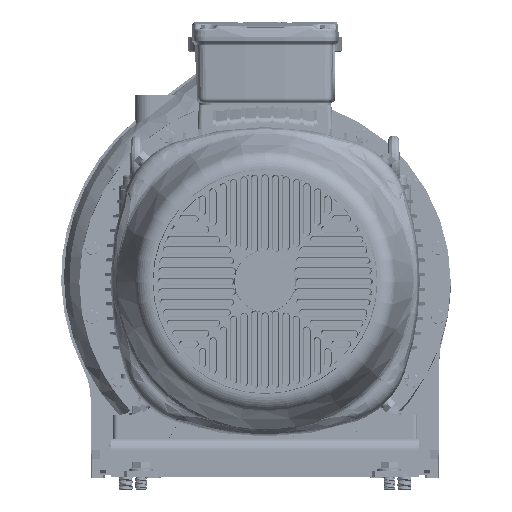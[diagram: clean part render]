
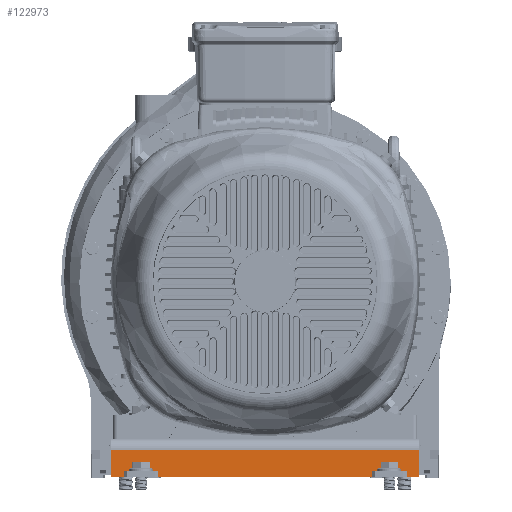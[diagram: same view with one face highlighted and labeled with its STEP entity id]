
A CAD part, top view. The second image highlights one B-rep face of the part: STEP entity #122973.
In plain terms, the highlighted planar face has unit normal (0, 0, 1) as drawn and (1, 0, 0) by its records, which use the part's own axes.
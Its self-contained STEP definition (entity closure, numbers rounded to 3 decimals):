
#3257 = ORIENTED_EDGE ( 'NONE', *, *, #7172, .T. ) ;
#3486 = EDGE_CURVE ( 'NONE', #132768, #11280, #22411, .T. ) ;
#4400 = FACE_OUTER_BOUND ( 'NONE', #118605, .T. ) ;
#6603 = VERTEX_POINT ( 'NONE', #157631 ) ;
#6913 = VERTEX_POINT ( 'NONE', #162618 ) ;
#7172 = EDGE_CURVE ( 'NONE', #45253, #132768, #54460, .T. ) ;
#8282 = CARTESIAN_POINT ( 'NONE',  ( 423., 9., -83.5 ) ) ;
#9152 = DIRECTION ( 'NONE',  ( 0., 0., -1. ) ) ;
#9408 = CARTESIAN_POINT ( 'NONE',  ( 423., 0., -33.5 ) ) ;
#10137 = VECTOR ( 'NONE', #151855, 1000. ) ;
#10256 = LINE ( 'NONE', #77585, #38701 ) ;
#11280 = VERTEX_POINT ( 'NONE', #41322 ) ;
#14509 = VECTOR ( 'NONE', #160543, 1000. ) ;
#14920 = EDGE_CURVE ( 'NONE', #48638, #62026, #155432, .T. ) ;
#16324 = EDGE_CURVE ( 'NONE', #135939, #108275, #156387, .T. ) ;
#19690 = DIRECTION ( 'NONE',  ( 0., 0., 1. ) ) ;
#20858 = EDGE_CURVE ( 'NONE', #6603, #132160, #33179, .T. ) ;
#22411 = LINE ( 'NONE', #151360, #77158 ) ;
#22983 = CARTESIAN_POINT ( 'NONE',  ( 423., 0., -457. ) ) ;
#25638 = LINE ( 'NONE', #128453, #152914 ) ;
#28921 = CARTESIAN_POINT ( 'NONE',  ( 423., 39., -16. ) ) ;
#32999 = AXIS2_PLACEMENT_3D ( 'NONE', #71746, #33004, #161904 ) ;
#33004 = DIRECTION ( 'NONE',  ( -1., 0., 0. ) ) ;
#33179 = LINE ( 'NONE', #148631, #153646 ) ;
#35263 = LINE ( 'NONE', #99283, #115445 ) ;
#36636 = DIRECTION ( 'NONE',  ( 0., 0., -1. ) ) ;
#38701 = VECTOR ( 'NONE', #166102, 1000. ) ;
#40365 = EDGE_CURVE ( 'NONE', #62026, #6603, #56883, .T. ) ;
#41322 = CARTESIAN_POINT ( 'NONE',  ( 423., 9., -439.5 ) ) ;
#41655 = CARTESIAN_POINT ( 'NONE',  ( 423., 0., 0. ) ) ;
#41791 = CARTESIAN_POINT ( 'NONE',  ( 423., -0.001, -457. ) ) ;
#43420 = EDGE_CURVE ( 'NONE', #70570, #135939, #10256, .T. ) ;
#43995 = PLANE ( 'NONE',  #32999 ) ;
#45213 = CARTESIAN_POINT ( 'NONE',  ( 423., 9., -33.5 ) ) ;
#45253 = VERTEX_POINT ( 'NONE', #82273 ) ;
#47221 = EDGE_CURVE ( 'NONE', #11280, #48638, #114289, .T. ) ;
#47281 = VERTEX_POINT ( 'NONE', #115940 ) ;
#48638 = VERTEX_POINT ( 'NONE', #63746 ) ;
#49183 = EDGE_CURVE ( 'NONE', #6913, #45253, #25638, .T. ) ;
#51936 = VECTOR ( 'NONE', #144440, 1000. ) ;
#54460 = LINE ( 'NONE', #105864, #98932 ) ;
#56883 = LINE ( 'NONE', #41791, #14509 ) ;
#57044 = EDGE_CURVE ( 'NONE', #47281, #108275, #73997, .T. ) ;
#62026 = VERTEX_POINT ( 'NONE', #22983 ) ;
#63746 = CARTESIAN_POINT ( 'NONE',  ( 423., 0., -439.5 ) ) ;
#63970 = ORIENTED_EDGE ( 'NONE', *, *, #47221, .T. ) ;
#64218 = ORIENTED_EDGE ( 'NONE', *, *, #43420, .F. ) ;
#70570 = VERTEX_POINT ( 'NONE', #8282 ) ;
#71224 = CARTESIAN_POINT ( 'NONE',  ( 423., 0., -33.5 ) ) ;
#71225 = CARTESIAN_POINT ( 'NONE',  ( 423., 9., -389.5 ) ) ;
#71746 = CARTESIAN_POINT ( 'NONE',  ( 423., 55., 0. ) ) ;
#73997 = LINE ( 'NONE', #124597, #85499 ) ;
#76352 = DIRECTION ( 'NONE',  ( 0., -1., 0. ) ) ;
#77158 = VECTOR ( 'NONE', #125255, 1000. ) ;
#77585 = CARTESIAN_POINT ( 'NONE',  ( 423., 9., -33.5 ) ) ;
#82273 = CARTESIAN_POINT ( 'NONE',  ( 423., 0., -389.5 ) ) ;
#83838 = DIRECTION ( 'NONE',  ( 0., -1., 0. ) ) ;
#85499 = VECTOR ( 'NONE', #9152, 1000. ) ;
#88558 = ORIENTED_EDGE ( 'NONE', *, *, #166498, .F. ) ;
#98753 = CARTESIAN_POINT ( 'NONE',  ( 423., 0., -83.5 ) ) ;
#98932 = VECTOR ( 'NONE', #157288, 1000. ) ;
#99283 = CARTESIAN_POINT ( 'NONE',  ( 423., -0.001, -16. ) ) ;
#103980 = ORIENTED_EDGE ( 'NONE', *, *, #20858, .T. ) ;
#105864 = CARTESIAN_POINT ( 'NONE',  ( 423., 0., -389.5 ) ) ;
#108275 = VERTEX_POINT ( 'NONE', #9408 ) ;
#110452 = ORIENTED_EDGE ( 'NONE', *, *, #3486, .T. ) ;
#114289 = LINE ( 'NONE', #153876, #138974 ) ;
#115445 = VECTOR ( 'NONE', #138099, 1000. ) ;
#115940 = CARTESIAN_POINT ( 'NONE',  ( 423., 0., -16. ) ) ;
#118605 = EDGE_LOOP ( 'NONE', ( #151039, #103980, #88558, #125144, #151153, #64218, #130020, #138323, #3257, #110452, #63970, #120867 ) ) ;
#120867 = ORIENTED_EDGE ( 'NONE', *, *, #14920, .T. ) ;
#122973 = ADVANCED_FACE ( 'NONE', ( #4400 ), #43995, .F. ) ;
#124597 = CARTESIAN_POINT ( 'NONE',  ( 423., 0., 0. ) ) ;
#125144 = ORIENTED_EDGE ( 'NONE', *, *, #57044, .T. ) ;
#125255 = DIRECTION ( 'NONE',  ( 0., 0., -1. ) ) ;
#126553 = LINE ( 'NONE', #98753, #10137 ) ;
#128453 = CARTESIAN_POINT ( 'NONE',  ( 423., 0., 0. ) ) ;
#130020 = ORIENTED_EDGE ( 'NONE', *, *, #142438, .F. ) ;
#132160 = VERTEX_POINT ( 'NONE', #28921 ) ;
#132768 = VERTEX_POINT ( 'NONE', #71225 ) ;
#135939 = VERTEX_POINT ( 'NONE', #45213 ) ;
#138099 = DIRECTION ( 'NONE',  ( 0., 1., 0. ) ) ;
#138323 = ORIENTED_EDGE ( 'NONE', *, *, #49183, .T. ) ;
#138974 = VECTOR ( 'NONE', #76352, 1000. ) ;
#142438 = EDGE_CURVE ( 'NONE', #6913, #70570, #126553, .T. ) ;
#144440 = DIRECTION ( 'NONE',  ( 0., 0., -1. ) ) ;
#148631 = CARTESIAN_POINT ( 'NONE',  ( 423., 39., 0. ) ) ;
#151039 = ORIENTED_EDGE ( 'NONE', *, *, #40365, .T. ) ;
#151153 = ORIENTED_EDGE ( 'NONE', *, *, #16324, .F. ) ;
#151360 = CARTESIAN_POINT ( 'NONE',  ( 423., 9., -439.5 ) ) ;
#151855 = DIRECTION ( 'NONE',  ( 0., 1., 0. ) ) ;
#152914 = VECTOR ( 'NONE', #36636, 1000. ) ;
#153646 = VECTOR ( 'NONE', #19690, 1000. ) ;
#153876 = CARTESIAN_POINT ( 'NONE',  ( 423., 0., -439.5 ) ) ;
#155432 = LINE ( 'NONE', #41655, #51936 ) ;
#156387 = LINE ( 'NONE', #71224, #159478 ) ;
#157288 = DIRECTION ( 'NONE',  ( 0., 1., 0. ) ) ;
#157631 = CARTESIAN_POINT ( 'NONE',  ( 423., 39., -457. ) ) ;
#159478 = VECTOR ( 'NONE', #83838, 1000. ) ;
#160543 = DIRECTION ( 'NONE',  ( 0., 1., 0. ) ) ;
#161904 = DIRECTION ( 'NONE',  ( 0., 0., 1. ) ) ;
#162618 = CARTESIAN_POINT ( 'NONE',  ( 423., 0., -83.5 ) ) ;
#166102 = DIRECTION ( 'NONE',  ( 0., 0., 1. ) ) ;
#166498 = EDGE_CURVE ( 'NONE', #47281, #132160, #35263, .T. ) ;
